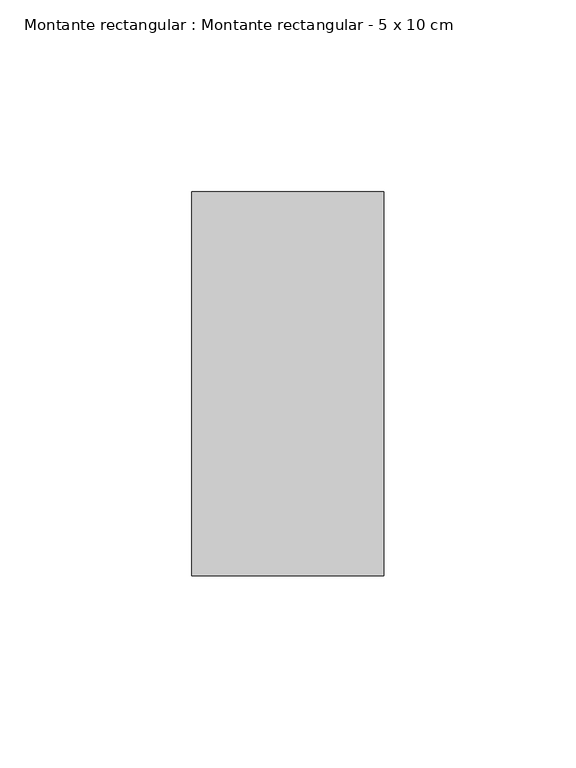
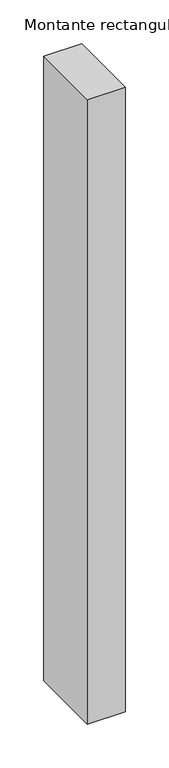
"""IFC4 building model written with IfcOpenShell, lengths in millimetres: member geometry, Montante rectangular : Montante rectangular - 5 x 10 cm."""

from ifc_helpers import new_model, si_unit, frame, origin, place, context, project, spatial, polyline, outline, extrude, source, transform, mapped, element, save


def montante_rectangular_montante_rectangular_5_x_10_cm_cfdf0692(model_context):
    return source(origin(), model_context, "Body", "SweptSolid", [
        extrude(outline(polyline([(25.0, -50.0), (-25.0, -50.0), (-25.0, 50.0), (25.0, 50.0), (25.0, -50.0)])), frame((0.0, 0.0, -872.5), z_axis=(0.0, 0.0, 1.0), x_axis=(1.0, 0.0, 0.0)), (0.0, 0.0, 1.0), 872.5),
    ])


if __name__ == "__main__":
    model = new_model("IFC4")
    model_context = context("Model", 3, world=origin())
    ifc_project = project(units=[si_unit("LENGTHUNIT", "METRE", prefix="MILLI")], contexts=[model_context])
    site = spatial("IfcSite", under=ifc_project)
    building = spatial("IfcBuilding", under=site)
    placement = place(None, origin())
    montante_rectangular_montante_rectangular_5_x_10_cm_shape = montante_rectangular_montante_rectangular_5_x_10_cm_cfdf0692(model_context)
    element("IfcMember", 1, ObjectType="Montante rectangular : Montante rectangular - 5 x 10 cm", at=placement, inside=building, context=model_context, shape_type="MappedRepresentation", body=[
        mapped(montante_rectangular_montante_rectangular_5_x_10_cm_shape, transform((0.0, 0.0, 0.0), x_axis=(1.0, 0.0, 0.0), y_axis=(0.0, 1.0, 0.0), z_axis=(0.0, 0.0, 1.0))),
    ])
    save(model, "model.ifc")
